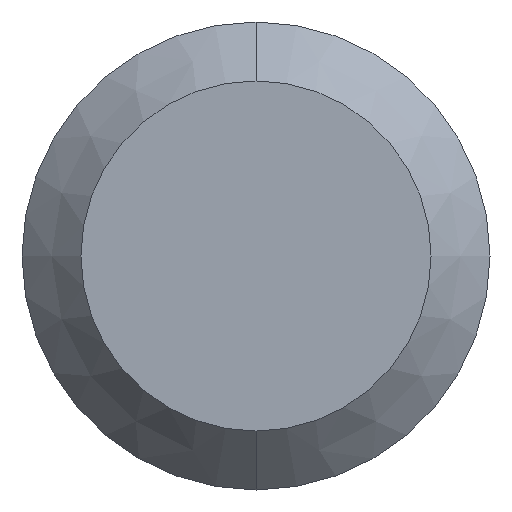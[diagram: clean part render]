
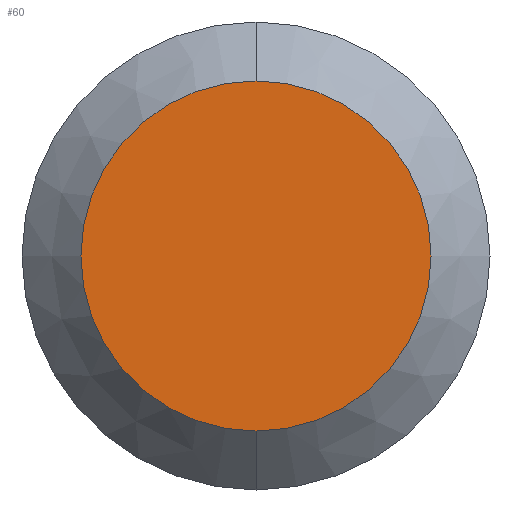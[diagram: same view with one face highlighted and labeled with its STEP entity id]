
A CAD part, front view. The second image highlights one B-rep face of the part: STEP entity #60.
In plain terms, the highlighted planar face has unit normal (0, -1, 0).
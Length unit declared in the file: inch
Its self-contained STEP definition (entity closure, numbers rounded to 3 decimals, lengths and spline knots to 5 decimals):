
#28 = DIRECTION ( 'NONE',  ( 0., -1., 0. ) ) ;
#29 = DIRECTION ( 'NONE',  ( 0., 0., -1. ) ) ;
#41 = CARTESIAN_POINT ( 'NONE',  ( 0., 0., 0. ) ) ;
#53 = PLANE ( 'NONE',  #254 ) ;
#60 = ADVANCED_FACE ( 'NONE', ( #128 ), #53, .T. ) ;
#83 = CARTESIAN_POINT ( 'NONE',  ( 0., 0., 0. ) ) ;
#86 = CARTESIAN_POINT ( 'NONE',  ( 0., 0., 0. ) ) ;
#93 = DIRECTION ( 'NONE',  ( 0., -1., 0. ) ) ;
#94 = DIRECTION ( 'NONE',  ( 0., 0., -1. ) ) ;
#104 = CARTESIAN_POINT ( 'NONE',  ( 0., 0., -0.416 ) ) ;
#105 = CARTESIAN_POINT ( 'NONE',  ( 0., 0., 0.416 ) ) ;
#124 = EDGE_LOOP ( 'NONE', ( #147, #151 ) ) ;
#128 = FACE_OUTER_BOUND ( 'NONE', #124, .T. ) ;
#147 = ORIENTED_EDGE ( 'NONE', *, *, #294, .T. ) ;
#148 = CIRCLE ( 'NONE', #297, 0.416 ) ;
#151 = ORIENTED_EDGE ( 'NONE', *, *, #256, .T. ) ;
#154 = CIRCLE ( 'NONE', #302, 0.416 ) ;
#254 = AXIS2_PLACEMENT_3D ( 'NONE', #41, #28, #29 ) ;
#256 = EDGE_CURVE ( 'NONE', #353, #354, #148, .T. ) ;
#294 = EDGE_CURVE ( 'NONE', #354, #353, #154, .T. ) ;
#297 = AXIS2_PLACEMENT_3D ( 'NONE', #83, #310, #311 ) ;
#302 = AXIS2_PLACEMENT_3D ( 'NONE', #86, #93, #94 ) ;
#310 = DIRECTION ( 'NONE',  ( 0., -1., 0. ) ) ;
#311 = DIRECTION ( 'NONE',  ( 0., 0., -1. ) ) ;
#353 = VERTEX_POINT ( 'NONE', #104 ) ;
#354 = VERTEX_POINT ( 'NONE', #105 ) ;
